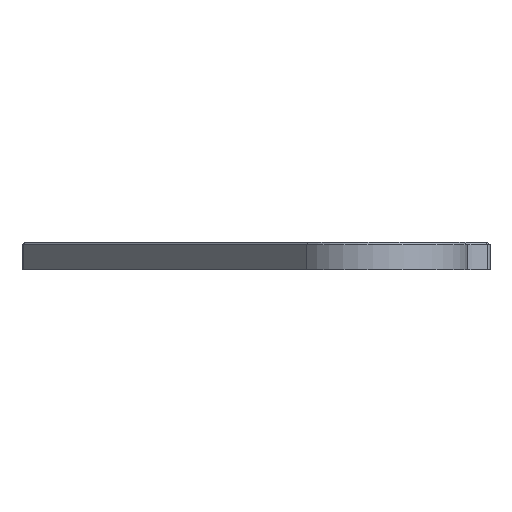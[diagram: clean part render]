
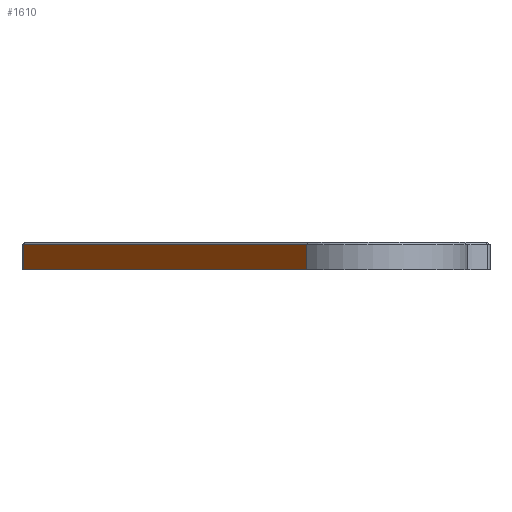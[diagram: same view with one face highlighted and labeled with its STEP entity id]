
A CAD part, left-side view. The second image highlights one B-rep face of the part: STEP entity #1610.
In plain terms, the highlighted planar face has unit normal (-0.602, 0.799, 0).
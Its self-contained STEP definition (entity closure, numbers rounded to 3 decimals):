
#211=FACE_OUTER_BOUND('',#306,.T.);
#306=EDGE_LOOP('',(#1218,#1219,#1220,#1221));
#431=LINE('',#2532,#583);
#454=LINE('',#2598,#606);
#455=LINE('',#2602,#607);
#456=LINE('',#2603,#608);
#583=VECTOR('',#2019,10.);
#606=VECTOR('',#2092,10.);
#607=VECTOR('',#2097,1.);
#608=VECTOR('',#2098,10.);
#737=VERTEX_POINT('',#2522);
#739=VERTEX_POINT('',#2528);
#758=VERTEX_POINT('',#2597);
#759=VERTEX_POINT('',#2601);
#905=EDGE_CURVE('',#737,#739,#431,.T.);
#939=EDGE_CURVE('',#739,#758,#454,.T.);
#941=EDGE_CURVE('',#759,#737,#455,.T.);
#942=EDGE_CURVE('',#758,#759,#456,.T.);
#1218=ORIENTED_EDGE('',*,*,#905,.F.);
#1219=ORIENTED_EDGE('',*,*,#941,.F.);
#1220=ORIENTED_EDGE('',*,*,#942,.F.);
#1221=ORIENTED_EDGE('',*,*,#939,.F.);
#1548=PLANE('',#1759);
#1610=ADVANCED_FACE('',(#211),#1548,.T.);
#1759=AXIS2_PLACEMENT_3D('',#2600,#2095,#2096);
#2019=DIRECTION('',(-0.799,-0.602,0.));
#2092=DIRECTION('',(0.,0.,-1.));
#2095=DIRECTION('center_axis',(-0.602,0.799,0.));
#2096=DIRECTION('ref_axis',(0.799,0.602,0.));
#2097=DIRECTION('',(0.,0.,1.));
#2098=DIRECTION('',(0.799,0.602,0.));
#2522=CARTESIAN_POINT('',(604.122,286.538,52.604));
#2528=CARTESIAN_POINT('',(536.907,235.892,52.604));
#2532=CARTESIAN_POINT('',(566.405,258.119,52.604));
#2597=CARTESIAN_POINT('',(536.907,235.892,48.104));
#2598=CARTESIAN_POINT('',(536.907,235.892,53.104));
#2600=CARTESIAN_POINT('Origin',(536.907,235.892,53.104));
#2601=CARTESIAN_POINT('',(604.122,286.538,48.104));
#2602=CARTESIAN_POINT('',(604.122,286.538,53.104));
#2603=CARTESIAN_POINT('',(604.39,286.739,48.104));
